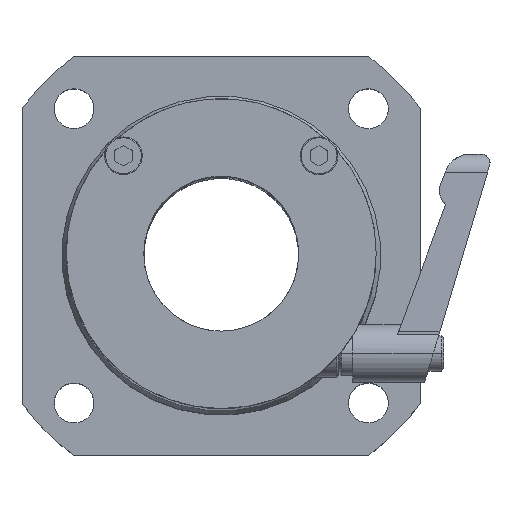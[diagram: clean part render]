
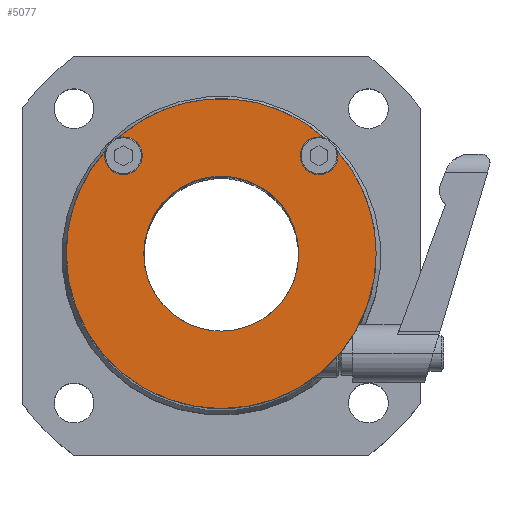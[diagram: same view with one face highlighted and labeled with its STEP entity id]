
A CAD part, top view. The second image highlights one B-rep face of the part: STEP entity #5077.
In plain terms, the highlighted planar face has unit normal (0, 0, 1).
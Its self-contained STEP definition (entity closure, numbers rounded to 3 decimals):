
#13 = CIRCLE ( 'NONE', #6544, 35. ) ;
#78 = VERTEX_POINT ( 'NONE', #2509 ) ;
#152 = ORIENTED_EDGE ( 'NONE', *, *, #3387, .T. ) ;
#154 = DIRECTION ( 'NONE',  ( 1., 0., 0. ) ) ;
#309 = AXIS2_PLACEMENT_3D ( 'NONE', #2109, #5920, #7604 ) ;
#452 = DIRECTION ( 'NONE',  ( 0., 0., 1. ) ) ;
#465 = DIRECTION ( 'NONE',  ( 1., 0., 0. ) ) ;
#545 = EDGE_CURVE ( 'NONE', #78, #5974, #4091, .T. ) ;
#547 = AXIS2_PLACEMENT_3D ( 'NONE', #2118, #3722, #2678 ) ;
#561 = ORIENTED_EDGE ( 'NONE', *, *, #1222, .F. ) ;
#652 = CARTESIAN_POINT ( 'NONE',  ( 19.543, 21.2, 90. ) ) ;
#698 = FACE_OUTER_BOUND ( 'NONE', #2102, .T. ) ;
#868 = VERTEX_POINT ( 'NONE', #6039 ) ;
#1027 = CARTESIAN_POINT ( 'NONE',  ( -37.557, -0.9, 90. ) ) ;
#1032 = VERTEX_POINT ( 'NONE', #8657 ) ;
#1222 = EDGE_CURVE ( 'NONE', #5642, #2463, #2554, .T. ) ;
#1254 = VERTEX_POINT ( 'NONE', #3860 ) ;
#1257 = DIRECTION ( 'NONE',  ( 1., 0., 0. ) ) ;
#1261 = ORIENTED_EDGE ( 'NONE', *, *, #8410, .F. ) ;
#1644 = CARTESIAN_POINT ( 'NONE',  ( 15.293, 21.2, 90. ) ) ;
#1725 = DIRECTION ( 'NONE',  ( 1., 0., 0. ) ) ;
#1734 = DIRECTION ( 'NONE',  ( 0., 0., 1. ) ) ;
#1837 = DIRECTION ( 'NONE',  ( 0., 0., 1. ) ) ;
#2010 = DIRECTION ( 'NONE',  ( 1., 0., 0. ) ) ;
#2102 = EDGE_LOOP ( 'NONE', ( #2849, #152, #6526, #561, #3474, #5775, #7324, #2828, #3597, #2765 ) ) ;
#2109 = CARTESIAN_POINT ( 'NONE',  ( 19.543, 21.2, 90. ) ) ;
#2118 = CARTESIAN_POINT ( 'NONE',  ( -2.557, -0.9, 90. ) ) ;
#2169 = DIRECTION ( 'NONE',  ( 0., 0., 1. ) ) ;
#2250 = DIRECTION ( 'NONE',  ( 0., 0., 1. ) ) ;
#2427 = CARTESIAN_POINT ( 'NONE',  ( 14.943, -0.9, 90. ) ) ;
#2463 = VERTEX_POINT ( 'NONE', #5955 ) ;
#2509 = CARTESIAN_POINT ( 'NONE',  ( 20.644, 25.305, 90. ) ) ;
#2554 = CIRCLE ( 'NONE', #4365, 4.25 ) ;
#2642 = VERTEX_POINT ( 'NONE', #8758 ) ;
#2678 = DIRECTION ( 'NONE',  ( 1., 0., 0. ) ) ;
#2765 = ORIENTED_EDGE ( 'NONE', *, *, #6527, .F. ) ;
#2828 = ORIENTED_EDGE ( 'NONE', *, *, #4249, .F. ) ;
#2849 = ORIENTED_EDGE ( 'NONE', *, *, #4690, .T. ) ;
#2876 = DIRECTION ( 'NONE',  ( 0., 0., 1. ) ) ;
#2994 = VERTEX_POINT ( 'NONE', #1027 ) ;
#3207 = CARTESIAN_POINT ( 'NONE',  ( -28.762, 22.302, 90. ) ) ;
#3326 = CIRCLE ( 'NONE', #4162, 35. ) ;
#3387 = EDGE_CURVE ( 'NONE', #2994, #1032, #3326, .T. ) ;
#3474 = ORIENTED_EDGE ( 'NONE', *, *, #3609, .F. ) ;
#3597 = ORIENTED_EDGE ( 'NONE', *, *, #4353, .F. ) ;
#3609 = EDGE_CURVE ( 'NONE', #5974, #5642, #5165, .T. ) ;
#3722 = DIRECTION ( 'NONE',  ( 0., 0., 1. ) ) ;
#3769 = DIRECTION ( 'NONE',  ( 0., 0., 1. ) ) ;
#3815 = FACE_BOUND ( 'NONE', #9226, .T. ) ;
#3860 = CARTESIAN_POINT ( 'NONE',  ( -20.057, -0.9, 90. ) ) ;
#4027 = AXIS2_PLACEMENT_3D ( 'NONE', #7463, #452, #1257 ) ;
#4091 = CIRCLE ( 'NONE', #309, 4.25 ) ;
#4162 = AXIS2_PLACEMENT_3D ( 'NONE', #5399, #2250, #6848 ) ;
#4234 = CIRCLE ( 'NONE', #7002, 35. ) ;
#4249 = EDGE_CURVE ( 'NONE', #868, #2642, #9525, .T. ) ;
#4353 = EDGE_CURVE ( 'NONE', #6954, #868, #5916, .T. ) ;
#4365 = AXIS2_PLACEMENT_3D ( 'NONE', #652, #3769, #9268 ) ;
#4647 = DIRECTION ( 'NONE',  ( 1., 0., 0. ) ) ;
#4690 = EDGE_CURVE ( 'NONE', #9622, #2994, #13, .T. ) ;
#4792 = CARTESIAN_POINT ( 'NONE',  ( -28.907, 21.2, 90. ) ) ;
#5077 = ADVANCED_FACE ( 'NONE', ( #698, #3815 ), #6916, .T. ) ;
#5165 = CIRCLE ( 'NONE', #6434, 4.25 ) ;
#5213 = AXIS2_PLACEMENT_3D ( 'NONE', #9929, #2876, #6024 ) ;
#5215 = DIRECTION ( 'NONE',  ( 1., 0., 0. ) ) ;
#5399 = CARTESIAN_POINT ( 'NONE',  ( -2.557, -0.9, 90. ) ) ;
#5642 = VERTEX_POINT ( 'NONE', #9584 ) ;
#5643 = CARTESIAN_POINT ( 'NONE',  ( -2.557, -0.9, 90. ) ) ;
#5775 = ORIENTED_EDGE ( 'NONE', *, *, #545, .F. ) ;
#5827 = CIRCLE ( 'NONE', #4027, 4.25 ) ;
#5916 = CIRCLE ( 'NONE', #9032, 4.25 ) ;
#5920 = DIRECTION ( 'NONE',  ( 0., 0., 1. ) ) ;
#5955 = CARTESIAN_POINT ( 'NONE',  ( 23.648, 22.302, 90. ) ) ;
#5965 = DIRECTION ( 'NONE',  ( 0., 0., 1. ) ) ;
#5974 = VERTEX_POINT ( 'NONE', #1644 ) ;
#6024 = DIRECTION ( 'NONE',  ( 1., 0., 0. ) ) ;
#6039 = CARTESIAN_POINT ( 'NONE',  ( -20.407, 21.2, 90. ) ) ;
#6222 = DIRECTION ( 'NONE',  ( 0., 0., 1. ) ) ;
#6262 = AXIS2_PLACEMENT_3D ( 'NONE', #7437, #5965, #5215 ) ;
#6266 = CARTESIAN_POINT ( 'NONE',  ( -2.557, -0.9, 90. ) ) ;
#6424 = CIRCLE ( 'NONE', #6262, 35. ) ;
#6434 = AXIS2_PLACEMENT_3D ( 'NONE', #10095, #2169, #2010 ) ;
#6526 = ORIENTED_EDGE ( 'NONE', *, *, #8005, .T. ) ;
#6527 = EDGE_CURVE ( 'NONE', #9622, #6954, #5827, .T. ) ;
#6544 = AXIS2_PLACEMENT_3D ( 'NONE', #5643, #8777, #1725 ) ;
#6598 = CARTESIAN_POINT ( 'NONE',  ( -2.557, -0.9, 90. ) ) ;
#6848 = DIRECTION ( 'NONE',  ( 1., 0., 0. ) ) ;
#6916 = PLANE ( 'NONE',  #5213 ) ;
#6954 = VERTEX_POINT ( 'NONE', #4792 ) ;
#7002 = AXIS2_PLACEMENT_3D ( 'NONE', #6266, #6222, #4647 ) ;
#7324 = ORIENTED_EDGE ( 'NONE', *, *, #9132, .T. ) ;
#7372 = CARTESIAN_POINT ( 'NONE',  ( -24.657, 21.2, 90. ) ) ;
#7427 = CIRCLE ( 'NONE', #8604, 17.5 ) ;
#7437 = CARTESIAN_POINT ( 'NONE',  ( -2.557, -0.9, 90. ) ) ;
#7463 = CARTESIAN_POINT ( 'NONE',  ( -24.657, 21.2, 90. ) ) ;
#7489 = DIRECTION ( 'NONE',  ( 1., 0., 0. ) ) ;
#7595 = VERTEX_POINT ( 'NONE', #2427 ) ;
#7604 = DIRECTION ( 'NONE',  ( 1., 0., 0. ) ) ;
#7704 = EDGE_CURVE ( 'NONE', #1254, #7595, #9070, .T. ) ;
#7894 = ORIENTED_EDGE ( 'NONE', *, *, #7704, .F. ) ;
#8005 = EDGE_CURVE ( 'NONE', #1032, #2463, #6424, .T. ) ;
#8256 = DIRECTION ( 'NONE',  ( 0., 0., 1. ) ) ;
#8410 = EDGE_CURVE ( 'NONE', #7595, #1254, #7427, .T. ) ;
#8604 = AXIS2_PLACEMENT_3D ( 'NONE', #6598, #1837, #7489 ) ;
#8657 = CARTESIAN_POINT ( 'NONE',  ( 32.443, -0.9, 90. ) ) ;
#8758 = CARTESIAN_POINT ( 'NONE',  ( -25.759, 25.305, 90. ) ) ;
#8777 = DIRECTION ( 'NONE',  ( 0., 0., 1. ) ) ;
#9032 = AXIS2_PLACEMENT_3D ( 'NONE', #9147, #8256, #465 ) ;
#9070 = CIRCLE ( 'NONE', #547, 17.5 ) ;
#9132 = EDGE_CURVE ( 'NONE', #78, #2642, #4234, .T. ) ;
#9147 = CARTESIAN_POINT ( 'NONE',  ( -24.657, 21.2, 90. ) ) ;
#9226 = EDGE_LOOP ( 'NONE', ( #7894, #1261 ) ) ;
#9268 = DIRECTION ( 'NONE',  ( 1., 0., 0. ) ) ;
#9525 = CIRCLE ( 'NONE', #9852, 4.25 ) ;
#9584 = CARTESIAN_POINT ( 'NONE',  ( 23.793, 21.2, 90. ) ) ;
#9622 = VERTEX_POINT ( 'NONE', #3207 ) ;
#9852 = AXIS2_PLACEMENT_3D ( 'NONE', #7372, #1734, #154 ) ;
#9929 = CARTESIAN_POINT ( 'NONE',  ( -2.557, -0.9, 90. ) ) ;
#10095 = CARTESIAN_POINT ( 'NONE',  ( 19.543, 21.2, 90. ) ) ;
